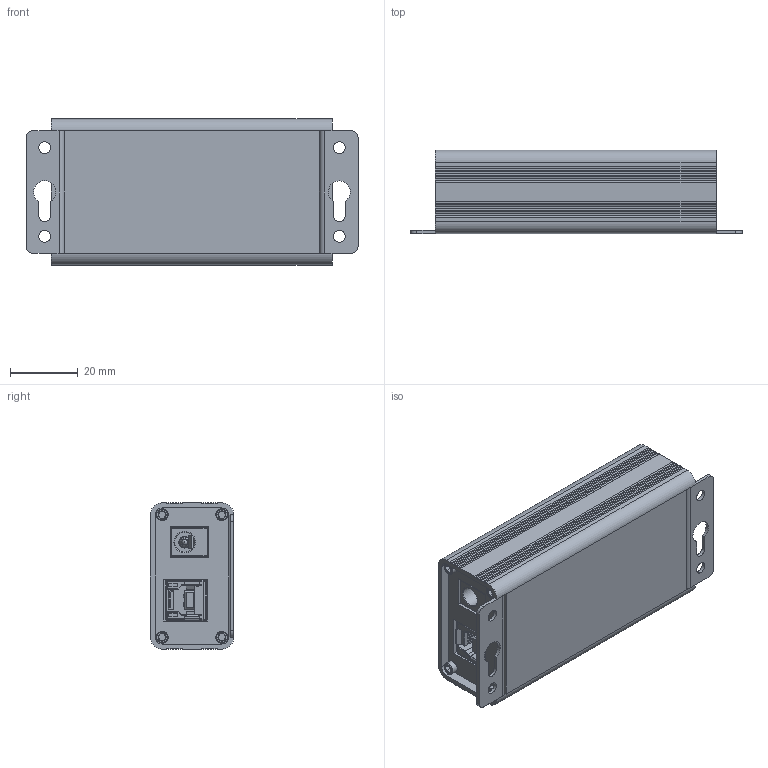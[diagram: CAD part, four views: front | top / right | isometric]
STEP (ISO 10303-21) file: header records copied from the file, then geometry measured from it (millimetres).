
FILE_DESCRIPTION(/* description */ (''),/* implementation_level */ '2;1');
FILE_NAME(/* name */ '/Users/leo/Desktop/Desktop - Leonardo’s MacBook Air/Coolgear May/USBG-Brec304/USBG-Brec304 Model3D LPV1.step',/* time_stamp */ '2021-06-10T15:27:06-04:00',/* author */ (''),/* organization */ (''),/* preprocessor_version */ 'ST-DEVELOPER v18.1',/* originating_system */ 'Autodesk Translation Framework v10.9.0.1377',/* authorisation */ '');
FILE_SCHEMA (('AUTOMOTIVE_DESIGN { 1 0 10303 214 3 1 1 }'));
Products named in the file (1): FusionComponent
Bounding box: 97.97 x 24.62 x 43.18 mm (x, y, z)
Volume: 41552.2 mm3; surface area: 41272.9 mm2
Topology: 1 solids, 48 shells, 4636 faces, 13430 edges, 8682 vertices
Faces by surface type: plane 3250, cylinder 936, bspline 377, cone 67, sphere 4, torus 2
Full cylindrical faces by diameter (mm): 1.595 x8, 1.645 x1, 2 x16, 2.117 x1, 3.4 x2, 3.45 x2, 3.469 x1, 3.556 x8, 4.939 x2, 5.88 x1
Entity records: 162921 total; most frequent: CARTESIAN_POINT 42186, ORIENTED_EDGE 26856, DIRECTION 23097, EDGE_CURVE 13428, LINE 10485, VECTOR 10485, VERTEX_POINT 8682, AXIS2_PLACEMENT_3D 6306
